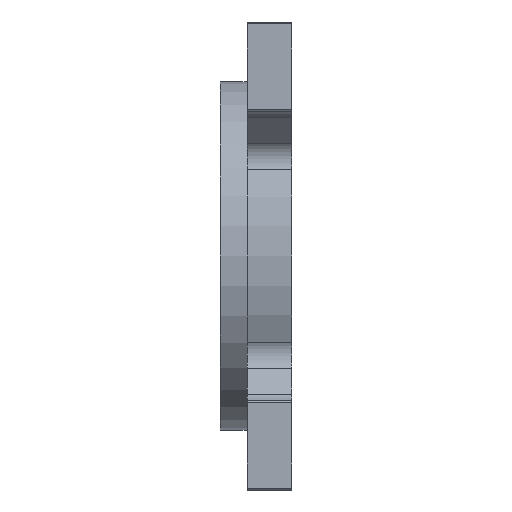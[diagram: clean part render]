
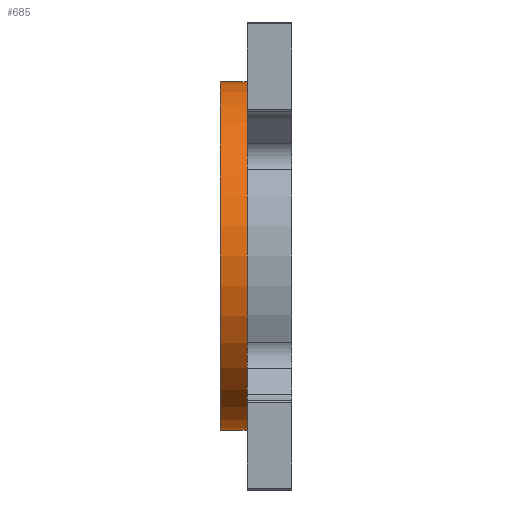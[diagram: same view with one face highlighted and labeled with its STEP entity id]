
A CAD part, left-side view. The second image highlights one B-rep face of the part: STEP entity #685.
In plain terms, the highlighted cylindrical face has radius 12.391 mm (diameter 24.783 mm), a partial arc.
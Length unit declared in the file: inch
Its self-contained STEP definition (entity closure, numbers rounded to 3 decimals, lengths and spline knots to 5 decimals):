
#63 = DIRECTION ( 'NONE',  ( 0., 0., -1. ) ) ;
#69 = EDGE_CURVE ( 'NONE', #3204, #2256, #4213, .T. ) ;
#185 = EDGE_LOOP ( 'NONE', ( #2249, #3446, #4016, #622 ) ) ;
#504 = EDGE_CURVE ( 'NONE', #1265, #3255, #4675, .T. ) ;
#518 = AXIS2_PLACEMENT_3D ( 'NONE', #2665, #4175, #63 ) ;
#622 = ORIENTED_EDGE ( 'NONE', *, *, #2217, .T. ) ;
#626 = DIRECTION ( 'NONE',  ( 0., 0., 1. ) ) ;
#685 = ADVANCED_FACE ( 'NONE', ( #1858 ), #2735, .T. ) ;
#870 = CARTESIAN_POINT ( 'NONE',  ( 0., 0.2, 0.48785 ) ) ;
#1011 = CARTESIAN_POINT ( 'NONE',  ( 0., 0.2, 0. ) ) ;
#1047 = DIRECTION ( 'NONE',  ( 0., -1., 0. ) ) ;
#1225 = CARTESIAN_POINT ( 'NONE',  ( 0., 0.2, -0.48785 ) ) ;
#1265 = VERTEX_POINT ( 'NONE', #4640 ) ;
#1293 = VECTOR ( 'NONE', #4192, 39.37008 ) ;
#1356 = EDGE_CURVE ( 'NONE', #1265, #3204, #4063, .T. ) ;
#1391 = AXIS2_PLACEMENT_3D ( 'NONE', #4753, #2463, #626 ) ;
#1858 = FACE_OUTER_BOUND ( 'NONE', #185, .T. ) ;
#2145 = CARTESIAN_POINT ( 'NONE',  ( 0., 0.125, 0.48785 ) ) ;
#2217 = EDGE_CURVE ( 'NONE', #3255, #2256, #2527, .T. ) ;
#2249 = ORIENTED_EDGE ( 'NONE', *, *, #69, .F. ) ;
#2256 = VERTEX_POINT ( 'NONE', #2145 ) ;
#2463 = DIRECTION ( 'NONE',  ( 0., 1., 0. ) ) ;
#2467 = DIRECTION ( 'NONE',  ( 0., 1., 0. ) ) ;
#2527 = CIRCLE ( 'NONE', #1391, 0.48785 ) ;
#2665 = CARTESIAN_POINT ( 'NONE',  ( 0., 0.2, 0. ) ) ;
#2735 = CYLINDRICAL_SURFACE ( 'NONE', #518, 0.48785 ) ;
#2875 = DIRECTION ( 'NONE',  ( 0., 0., 1. ) ) ;
#3204 = VERTEX_POINT ( 'NONE', #870 ) ;
#3255 = VERTEX_POINT ( 'NONE', #4619 ) ;
#3446 = ORIENTED_EDGE ( 'NONE', *, *, #1356, .F. ) ;
#3763 = AXIS2_PLACEMENT_3D ( 'NONE', #1011, #2467, #2875 ) ;
#4016 = ORIENTED_EDGE ( 'NONE', *, *, #504, .T. ) ;
#4063 = CIRCLE ( 'NONE', #3763, 0.48785 ) ;
#4175 = DIRECTION ( 'NONE',  ( 0., -1., 0. ) ) ;
#4192 = DIRECTION ( 'NONE',  ( 0., -1., 0. ) ) ;
#4213 = LINE ( 'NONE', #4469, #4276 ) ;
#4276 = VECTOR ( 'NONE', #1047, 39.37008 ) ;
#4469 = CARTESIAN_POINT ( 'NONE',  ( 0., 0.2, 0.48785 ) ) ;
#4619 = CARTESIAN_POINT ( 'NONE',  ( 0., 0.125, -0.48785 ) ) ;
#4640 = CARTESIAN_POINT ( 'NONE',  ( 0., 0.2, -0.48785 ) ) ;
#4675 = LINE ( 'NONE', #1225, #1293 ) ;
#4753 = CARTESIAN_POINT ( 'NONE',  ( 0., 0.125, 0. ) ) ;
